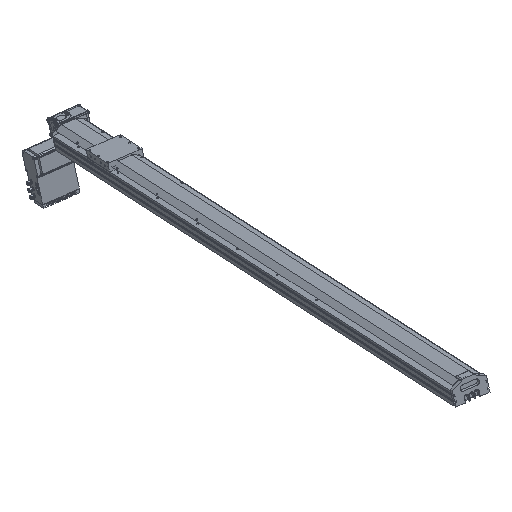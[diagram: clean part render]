
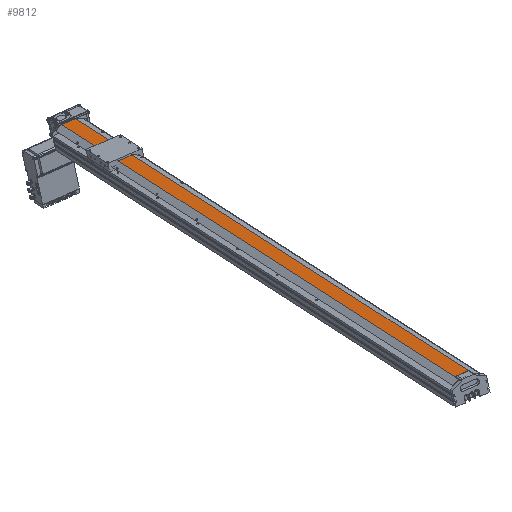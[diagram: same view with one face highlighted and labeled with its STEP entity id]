
A CAD part, front view. The second image highlights one B-rep face of the part: STEP entity #9812.
In plain terms, the highlighted planar face has unit normal (-0.185, -0.453, 0.872) as drawn and (0, 1, 0) by its records, which use the part's own axes.
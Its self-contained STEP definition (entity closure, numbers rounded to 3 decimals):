
#9604 = EDGE_LOOP ( 'NONE', ( #9823, #9806, #9740, #9708, #9815 ) ) ;
#9675 = VERTEX_POINT ( 'NONE', #26541 ) ;
#9708 = ORIENTED_EDGE ( 'NONE', *, *, #9768, .T. ) ;
#9718 = EDGE_CURVE ( 'NONE', #24055, #9849, #26651, .T. ) ;
#9740 = ORIENTED_EDGE ( 'NONE', *, *, #9783, .F. ) ;
#9768 = EDGE_CURVE ( 'NONE', #9786, #24122, #26743, .T. ) ;
#9783 = EDGE_CURVE ( 'NONE', #9786, #9675, #26720, .T. ) ;
#9786 = VERTEX_POINT ( 'NONE', #26779 ) ;
#9806 = ORIENTED_EDGE ( 'NONE', *, *, #9816, .F. ) ;
#9812 = ADVANCED_FACE ( 'NONE', ( #26812 ), #26809, .F. ) ;
#9815 = ORIENTED_EDGE ( 'NONE', *, *, #24039, .T. ) ;
#9816 = EDGE_CURVE ( 'NONE', #9675, #9849, #26802, .T. ) ;
#9823 = ORIENTED_EDGE ( 'NONE', *, *, #9718, .T. ) ;
#9849 = VERTEX_POINT ( 'NONE', #26816 ) ;
#14522 = LINE ( 'NONE', #14553, #14552 ) ;
#14551 = DIRECTION ( 'NONE',  ( 0., 0., -1. ) ) ;
#14552 = VECTOR ( 'NONE', #14551, 1000. ) ;
#14553 = CARTESIAN_POINT ( 'NONE',  ( 20., 61.75, 2000. ) ) ;
#14594 = CARTESIAN_POINT ( 'NONE',  ( 20., 61.75, 0. ) ) ;
#14690 = CARTESIAN_POINT ( 'NONE',  ( 20., 61.75, 5.114 ) ) ;
#24039 = EDGE_CURVE ( 'NONE', #24122, #24055, #14522, .T. ) ;
#24055 = VERTEX_POINT ( 'NONE', #14594 ) ;
#24122 = VERTEX_POINT ( 'NONE', #14690 ) ;
#26541 = CARTESIAN_POINT ( 'NONE',  ( -20., 61.75, 2000. ) ) ;
#26648 = DIRECTION ( 'NONE',  ( -1., 0., 0. ) ) ;
#26649 = VECTOR ( 'NONE', #26648, 1000. ) ;
#26650 = CARTESIAN_POINT ( 'NONE',  ( 20., 61.75, 0. ) ) ;
#26651 = LINE ( 'NONE', #26650, #26649 ) ;
#26720 = LINE ( 'NONE', #26776, #26775 ) ;
#26740 = DIRECTION ( 'NONE',  ( 0., 0., -1. ) ) ;
#26741 = VECTOR ( 'NONE', #26740, 1000. ) ;
#26742 = CARTESIAN_POINT ( 'NONE',  ( 20., 61.75, 2000. ) ) ;
#26743 = LINE ( 'NONE', #26742, #26741 ) ;
#26774 = DIRECTION ( 'NONE',  ( -1., 0., 0. ) ) ;
#26775 = VECTOR ( 'NONE', #26774, 1000. ) ;
#26776 = CARTESIAN_POINT ( 'NONE',  ( 20., 61.75, 2000. ) ) ;
#26779 = CARTESIAN_POINT ( 'NONE',  ( 20., 61.75, 2000. ) ) ;
#26787 = DIRECTION ( 'NONE',  ( 0., 0., -1. ) ) ;
#26788 = VECTOR ( 'NONE', #26787, 1000. ) ;
#26792 = DIRECTION ( 'NONE',  ( 0., 0., -1. ) ) ;
#26793 = DIRECTION ( 'NONE',  ( 0., -1., 0. ) ) ;
#26794 = CARTESIAN_POINT ( 'NONE',  ( 20., 61.75, 2000. ) ) ;
#26795 = AXIS2_PLACEMENT_3D ( 'NONE', #26794, #26793, #26792 ) ;
#26797 = CARTESIAN_POINT ( 'NONE',  ( -20., 61.75, 2000. ) ) ;
#26802 = LINE ( 'NONE', #26797, #26788 ) ;
#26809 = PLANE ( 'NONE',  #26795 ) ;
#26812 = FACE_OUTER_BOUND ( 'NONE', #9604, .T. ) ;
#26816 = CARTESIAN_POINT ( 'NONE',  ( -20., 61.75, 0. ) ) ;
